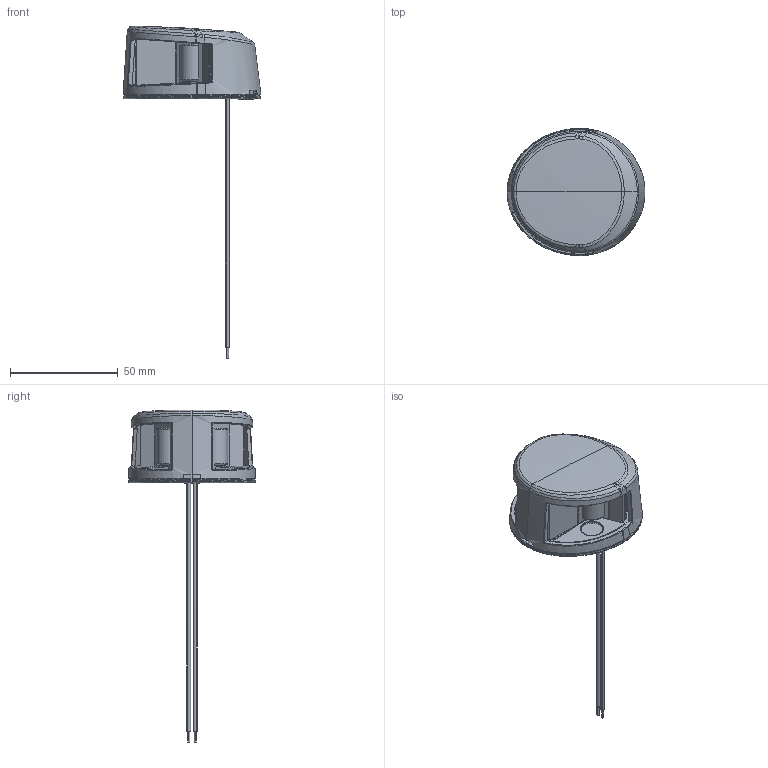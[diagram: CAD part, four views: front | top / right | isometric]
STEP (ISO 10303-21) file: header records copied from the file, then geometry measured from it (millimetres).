
FILE_DESCRIPTION(('CATIA V5 STEP Exchange','CAx-IF Rec.Pracs.--- Model Styling and Organization---1.5--- 2016-08-15','CAx-IF Rec.Pracs.---Supplemental Geometry---1.0---2011-11-01','CAx-IF Rec.Pracs.---Representation and Presentation of Product Manufacturing Information (PMI)---2.3---2014-10-13','CAx-IF Rec.Pracs.--- Composite Materials ---1.1---2010-07-15'),'2;1');
FILE_NAME('E:\tmp\ddx\2718943\10004049141_D10_001_BI-COLOUR_LAMP_DECKMOUNT_GEN_II.stp','2026-09-22T02:09:14+00:00',('none'),('none'),'CATIA Version 5-6 Release 2024 SP3 HF10','CATIA V5 STEP AP214 Edition 3 v3','none');
FILE_SCHEMA(('AUTOMOTIVE_DESIGN { 1 0 10303 214 3 1 1 1 }'));
Products named in the file (1): 10004049141_D10_001
Bounding box: 63.97 x 59 x 154 mm (x, y, z)
Volume: 51363.6 mm3; surface area: 35619.6 mm2
Topology: 5 solids, 11 shells, 1014 faces, 2522 edges, 1518 vertices
Faces by surface type: bspline 527, cylinder 205, plane 168, cone 50, torus 34, sphere 20, extrusion 10
Entity records: 64841 total; most frequent: CARTESIAN_POINT 46429, ORIENTED_EDGE 5000, EDGE_CURVE 2500, B_SPLINE_CURVE_WITH_KNOTS 1715, DIRECTION 1613, VERTEX_POINT 1518, EDGE_LOOP 1042, ADVANCED_FACE 1014
